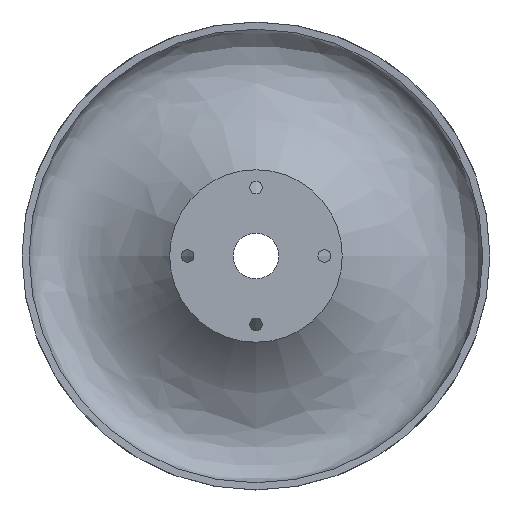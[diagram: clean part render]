
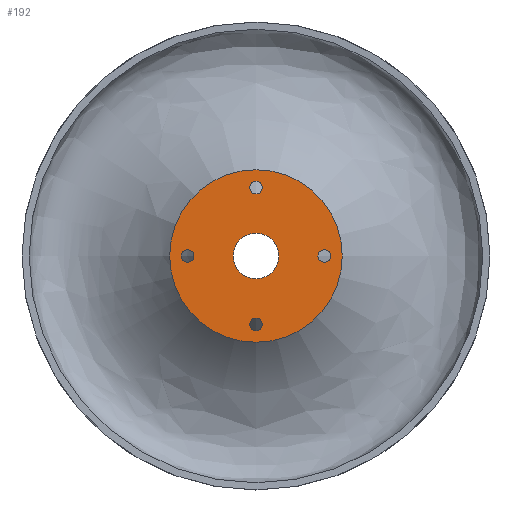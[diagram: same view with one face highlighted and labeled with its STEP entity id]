
A CAD part, left-side view. The second image highlights one B-rep face of the part: STEP entity #192.
In plain terms, the highlighted planar face has unit normal (-1, 0, 0).
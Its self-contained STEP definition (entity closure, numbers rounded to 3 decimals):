
#25=FACE_BOUND('',#57,.T.);
#26=FACE_BOUND('',#58,.T.);
#27=FACE_BOUND('',#59,.T.);
#28=FACE_BOUND('',#60,.T.);
#29=FACE_BOUND('',#61,.T.);
#31=PLANE('',#230);
#41=FACE_OUTER_BOUND('',#56,.T.);
#56=EDGE_LOOP('',(#172));
#57=EDGE_LOOP('',(#173));
#58=EDGE_LOOP('',(#174));
#59=EDGE_LOOP('',(#175));
#60=EDGE_LOOP('',(#176));
#61=EDGE_LOOP('',(#177));
#74=CIRCLE('',#208,3.5);
#76=CIRCLE('',#211,3.5);
#78=CIRCLE('',#214,3.5);
#80=CIRCLE('',#217,3.5);
#83=CIRCLE('',#221,48.);
#89=CIRCLE('',#229,12.7);
#90=VERTEX_POINT('',#289);
#92=VERTEX_POINT('',#295);
#94=VERTEX_POINT('',#301);
#96=VERTEX_POINT('',#307);
#99=VERTEX_POINT('',#315);
#105=VERTEX_POINT('',#6031);
#106=EDGE_CURVE('',#90,#90,#74,.T.);
#109=EDGE_CURVE('',#92,#92,#76,.T.);
#112=EDGE_CURVE('',#94,#94,#78,.T.);
#115=EDGE_CURVE('',#96,#96,#80,.T.);
#120=EDGE_CURVE('',#99,#99,#83,.T.);
#129=EDGE_CURVE('',#105,#105,#89,.T.);
#172=ORIENTED_EDGE('',*,*,#120,.F.);
#173=ORIENTED_EDGE('',*,*,#106,.T.);
#174=ORIENTED_EDGE('',*,*,#109,.T.);
#175=ORIENTED_EDGE('',*,*,#112,.T.);
#176=ORIENTED_EDGE('',*,*,#115,.T.);
#177=ORIENTED_EDGE('',*,*,#129,.T.);
#192=ADVANCED_FACE('',(#41,#25,#26,#27,#28,#29),#31,.T.);
#208=AXIS2_PLACEMENT_3D('',#290,#235,#236);
#211=AXIS2_PLACEMENT_3D('',#296,#242,#243);
#214=AXIS2_PLACEMENT_3D('',#302,#249,#250);
#217=AXIS2_PLACEMENT_3D('',#308,#256,#257);
#221=AXIS2_PLACEMENT_3D('',#317,#266,#267);
#229=AXIS2_PLACEMENT_3D('',#6332,#283,#284);
#230=AXIS2_PLACEMENT_3D('',#6333,#285,#286);
#235=DIRECTION('center_axis',(1.,0.,0.));
#236=DIRECTION('ref_axis',(0.,-1.,0.));
#242=DIRECTION('center_axis',(1.,0.,0.));
#243=DIRECTION('ref_axis',(0.,-1.,0.));
#249=DIRECTION('center_axis',(1.,0.,0.));
#250=DIRECTION('ref_axis',(0.,-1.,0.));
#256=DIRECTION('center_axis',(1.,0.,0.));
#257=DIRECTION('ref_axis',(0.,-1.,0.));
#266=DIRECTION('center_axis',(1.,0.,0.));
#267=DIRECTION('ref_axis',(0.,0.,-1.));
#283=DIRECTION('center_axis',(1.,0.,0.));
#284=DIRECTION('ref_axis',(0.,0.,-1.));
#285=DIRECTION('center_axis',(-1.,0.,0.));
#286=DIRECTION('ref_axis',(0.,0.,1.));
#289=CARTESIAN_POINT('',(0.,-34.5,0.));
#290=CARTESIAN_POINT('Origin',(0.,-38.,0.));
#295=CARTESIAN_POINT('',(0.,3.5,-38.));
#296=CARTESIAN_POINT('Origin',(0.,0.,-38.));
#301=CARTESIAN_POINT('',(0.,41.5,0.));
#302=CARTESIAN_POINT('Origin',(0.,38.,0.));
#307=CARTESIAN_POINT('',(0.,3.5,38.));
#308=CARTESIAN_POINT('Origin',(0.,0.,38.));
#315=CARTESIAN_POINT('',(0.,-48.,0.));
#317=CARTESIAN_POINT('Origin',(0.,0.,0.));
#6031=CARTESIAN_POINT('',(0.,12.7,0.));
#6332=CARTESIAN_POINT('Origin',(0.,0.,0.));
#6333=CARTESIAN_POINT('Origin',(0.,48.,0.));
